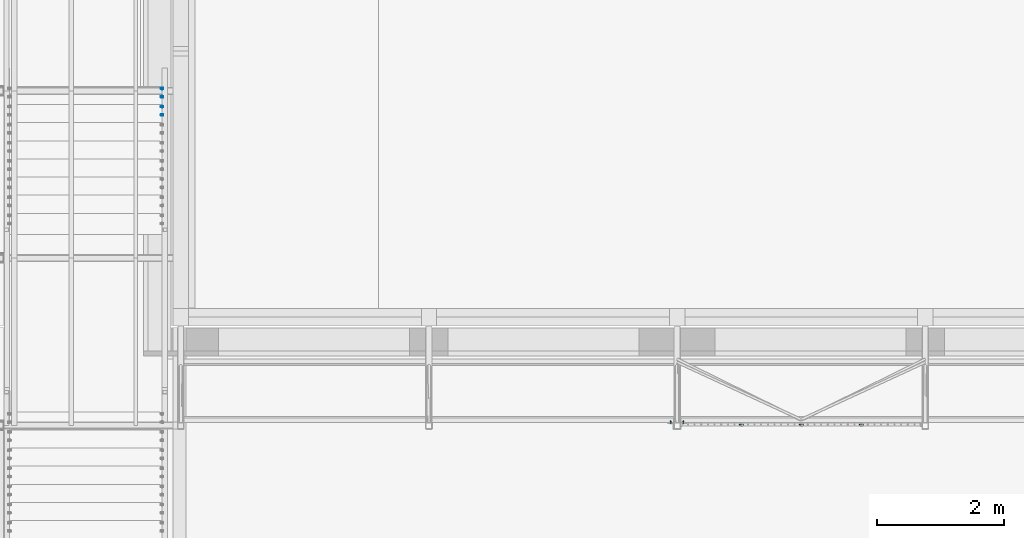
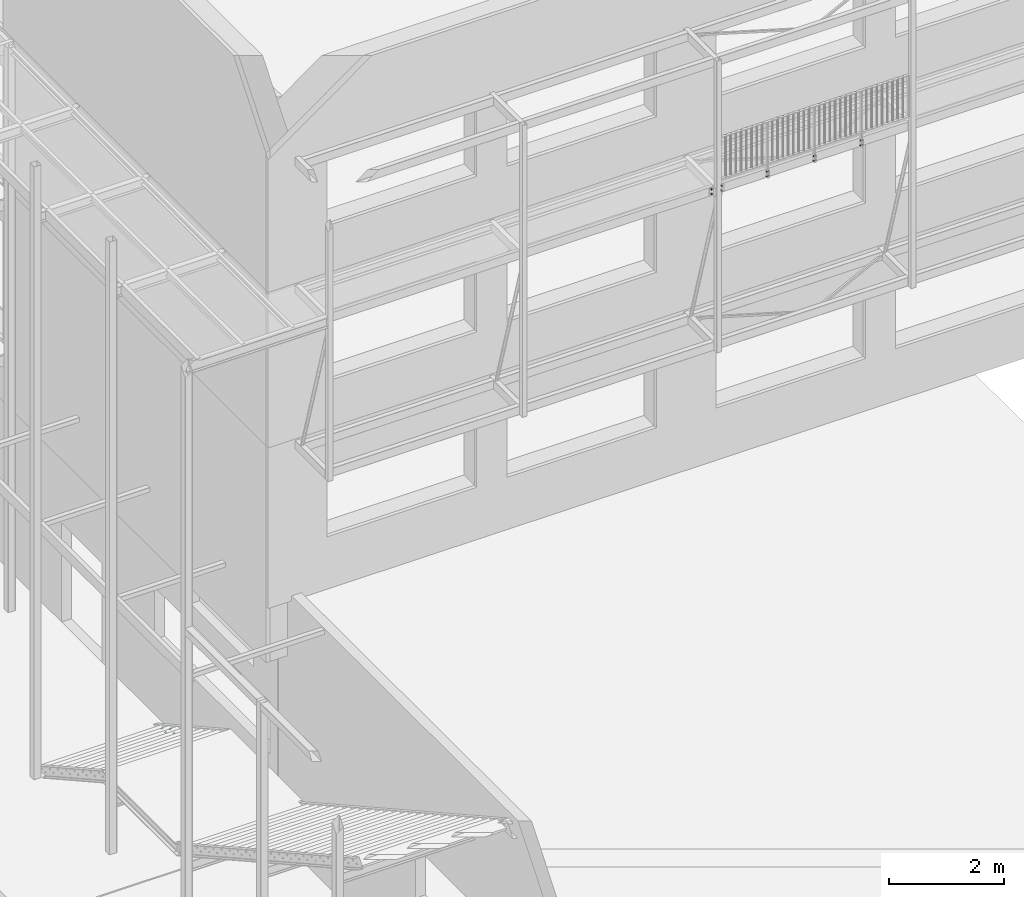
# One storey, part 68 of 78: 7 mechanical fasteners, 4 elements without a shape of their own.
"""IFC2X3 building model written with IfcOpenShell, lengths in millimetres."""

from ifc_helpers import new_model, si_unit, frame, origin_with_axes, origin_2d_with_axis, place, context, subcontext, project, spatial, polyline, circle, outline, extrude, source, transform, mapped, material, type_object, element, aggregate, save


model = new_model("IFC2X3")

# Units and contexts
model_context = context("Model", 3, precision=1e-05, world=origin_with_axes())
body_context = subcontext(model_context, "Body", "Model", "MODEL_VIEW")
ifc_project = project(units=[si_unit("LENGTHUNIT", "METRE", prefix="MILLI"), si_unit("AREAUNIT", "SQUARE_METRE"), si_unit("VOLUMEUNIT", "CUBIC_METRE"), si_unit("MASSUNIT", "GRAM", prefix="KILO"), si_unit("TIMEUNIT", "SECOND"), si_unit("PLANEANGLEUNIT", "RADIAN"), si_unit("SOLIDANGLEUNIT", "STERADIAN"), si_unit("THERMODYNAMICTEMPERATUREUNIT", "DEGREE_CELSIUS"), si_unit("LUMINOUSINTENSITYUNIT", "LUMEN")], contexts=[model_context])

# Site, building, storey
site_placement = place(None, origin_with_axes())
site = spatial("IfcSite", under=ifc_project, at=site_placement, Name="Site", CompositionType="ELEMENT")
building_placement = place(site_placement, origin_with_axes())
building = spatial("IfcBuilding", under=site, at=building_placement, Name="Undefined", CompositionType="ELEMENT")
storey_placement = place(building_placement, origin_with_axes())
storey = spatial("IfcBuildingStorey", under=building, at=storey_placement, Name="Undefined", CompositionType="ELEMENT", Elevation=0.0)

# Assembly, mechanical fasteners
assembly_1_placement = place(storey_placement, origin_with_axes())
assembly_1 = element("IfcElementAssembly", 1, at=assembly_1_placement, inside=storey, Name="MAIN_COURANTE", AssemblyPlace="NOTDEFINED", PredefinedType="RIGID_FRAME")
ifc_material_1 = material(Name="INOX-A4")
mechanical_fastener_type = type_object("IfcMechanicalFastenerType", Name="Bolt assembly")
shared_shape_1 = source(origin_with_axes(), body_context, "Body", "SweptSolid", [
    extrude(circle(Radius=7.0, at=origin_2d_with_axis()), frame((0.0, -7.4, 0.0), z_axis=(0.0, 1.0, 0.0), x_axis=(1.0, 0.0, 0.0)), (0.0, 0.0, 1.0), 15.0),
    extrude(circle(Radius=7.0, at=origin_2d_with_axis()), frame((0.0, 7.4, 0.0), z_axis=(0.0, 1.0, 0.0), x_axis=(1.0, 0.0, 0.0)), (0.0, 0.0, 1.0), 20.1),
    extrude(outline(polyline([(10.96965511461, 0.0), (5.484827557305, 9.50000000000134), (-5.484827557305, 9.50000000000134), (-10.96965511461, 0.0), (-5.484827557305, -9.50000000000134), (5.484827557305, -9.50000000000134), (10.96965511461, 0.0)])), frame((0.0, -18.7000000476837, 0.0), z_axis=(0.0, 1.0, 0.0), x_axis=(1.0, 0.0, 0.0)), (0.0, 0.0, 1.0), 8.0),
    extrude(circle(Radius=6.0, at=origin_2d_with_axis()), frame((0.0, -10.7000000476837, 0.0), z_axis=(0.0, 1.0, 0.0), x_axis=(1.0, 0.0, 0.0)), (0.0, 0.0, 1.0), 60.0),
    extrude(circle(Radius=15.5, at=origin_2d_with_axis()), frame((0.0, -10.7000000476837, 0.0), z_axis=(0.0, 1.0, 0.0), x_axis=(1.0, 0.0, 0.0)), (0.0, 0.0, 1.0), 3.2),
    extrude(circle(Radius=15.5, at=origin_2d_with_axis()), frame((0.0, 27.5, 0.0), z_axis=(0.0, 1.0, 0.0), x_axis=(1.0, 0.0, 0.0)), (0.0, 0.0, 1.0), 3.2),
    extrude(outline(polyline([(10.39230484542, 0.0), (5.19615242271, 9.00000000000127), (-5.19615242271, 9.00000000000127), (-10.39230484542, 0.0), (-5.19615242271, -9.00000000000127), (5.19615242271, -9.00000000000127), (10.39230484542, 0.0)])), frame((0.0, 30.7000000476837, 0.0), z_axis=(0.0, 1.0, 0.0), x_axis=(1.0, 0.0, 0.0)), (0.0, 0.0, 1.0), 10.8),
])
mechanical_fastener_1_placement = place(assembly_1_placement, frame((-20717.5, -8643.0, 159885.04), z_axis=(0.0, 0.0, 1.0), x_axis=(0.0, 1.0, 0.0)))
mechanical_fastener_1 = element("IfcMechanicalFastener", 2, at=mechanical_fastener_1_placement, type_object=mechanical_fastener_type, material=ifc_material_1, Name="Bolt assembly", NominalDiameter=12.0, NominalLength=60.0, context=body_context, shape_type="MappedRepresentation", body=[
    mapped(shared_shape_1, transform((0.0, 0.0, -50.0))),
    mapped(shared_shape_1, transform((0.0, 0.0, 50.0))),
])
mechanical_fastener_2_placement = place(assembly_1_placement, frame((-21660.0, -8643.0, 159885.04), z_axis=(0.0, 0.0, 1.0), x_axis=(0.0, 1.0, 0.0)))
mechanical_fastener_2 = element("IfcMechanicalFastener", 3, at=mechanical_fastener_2_placement, type_object=mechanical_fastener_type, material=ifc_material_1, Name="Bolt assembly", NominalDiameter=12.0, NominalLength=60.0, context=body_context, shape_type="MappedRepresentation", body=[
    mapped(shared_shape_1, transform((0.0, 0.0, -50.0))),
    mapped(shared_shape_1, transform((0.0, 0.0, 50.0))),
])
shared_shape_2 = source(origin_with_axes(), body_context, "Body", "SweptSolid", [
    extrude(circle(Radius=7.0, at=origin_2d_with_axis()), frame((0.0, -7.4, 0.0), z_axis=(0.0, 1.0, 0.0), x_axis=(1.0, 0.0, 0.0)), (0.0, 0.0, 1.0), 15.0),
    extrude(circle(Radius=7.0, at=origin_2d_with_axis()), frame((0.0, 7.4, 0.0), z_axis=(0.0, 1.0, 0.0), x_axis=(1.0, 0.0, 0.0)), (0.0, 0.0, 1.0), 20.1),
    extrude(outline(polyline([(10.96965511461, 0.0), (5.484827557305, 9.50000000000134), (-5.484827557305, 9.50000000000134), (-10.96965511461, 0.0), (-5.484827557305, -9.50000000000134), (5.484827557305, -9.50000000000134), (10.96965511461, 0.0)])), frame((0.0, -18.7000000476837, 0.0), z_axis=(0.0, 1.0, 0.0), x_axis=(1.0, 0.0, 0.0)), (0.0, 0.0, 1.0), 8.0),
    extrude(circle(Radius=6.0, at=origin_2d_with_axis()), frame((0.0, -10.7000000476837, 0.0), z_axis=(0.0, 1.0, 0.0), x_axis=(1.0, 0.0, 0.0)), (0.0, 0.0, 1.0), 60.0),
    extrude(circle(Radius=15.5, at=origin_2d_with_axis()), frame((0.0, -10.7000000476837, 0.0), z_axis=(0.0, 1.0, 0.0), x_axis=(1.0, 0.0, 0.0)), (0.0, 0.0, 1.0), 3.2),
    extrude(circle(Radius=15.5, at=origin_2d_with_axis()), frame((0.0, 27.5, 0.0), z_axis=(0.0, 1.0, 0.0), x_axis=(1.0, 0.0, 0.0)), (0.0, 0.0, 1.0), 3.2),
    extrude(outline(polyline([(10.39230484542, 0.0), (5.19615242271, 9.00000000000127), (-5.19615242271, 9.00000000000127), (-10.39230484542, 0.0), (-5.19615242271, -9.00000000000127), (5.19615242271, -9.00000000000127), (10.39230484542, 0.0)])), frame((0.0, 30.7000000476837, 0.0), z_axis=(0.0, 1.0, 0.0), x_axis=(1.0, 0.0, 0.0)), (0.0, 0.0, 1.0), 10.8),
])
mechanical_fastener_3_placement = place(assembly_1_placement, frame((-19775.0, -8643.0, 159885.04), z_axis=(0.0, 0.0, 1.0), x_axis=(0.0, 1.0, 0.0)))
mechanical_fastener_3 = element("IfcMechanicalFastener", 4, at=mechanical_fastener_3_placement, type_object=mechanical_fastener_type, material=ifc_material_1, Name="Bolt assembly", NominalDiameter=12.0, NominalLength=60.0, context=body_context, shape_type="MappedRepresentation", body=[
    mapped(shared_shape_2, transform((0.0, 0.0, -50.0))),
    mapped(shared_shape_2, transform((0.0, 0.0, 50.0))),
])
aggregate(assembly_1, [mechanical_fastener_3, mechanical_fastener_1, mechanical_fastener_2])

assembly_2_placement = place(storey_placement, origin_with_axes())
assembly_2 = element("IfcElementAssembly", 5, at=assembly_2_placement, inside=storey, AssemblyPlace="NOTDEFINED", PredefinedType="RIGID_FRAME")
ifc_material_2 = material(Name="6.8")
shared_shape_3 = source(origin_with_axes(), body_context, "Body", "SweptSolid", [
    extrude(circle(Radius=6.0, at=origin_2d_with_axis()), frame((0.0, -9.00000002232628, 0.0), z_axis=(0.0, 1.0, 0.0), x_axis=(1.0, 0.0, 0.0)), (0.0, 0.0, 1.0), 9.1),
    extrude(outline(polyline([(10.96965511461, 0.0), (5.484827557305, 9.50000000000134), (-5.484827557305, 9.50000000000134), (-10.96965511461, 0.0), (-5.484827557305, -9.50000000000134), (5.484827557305, -9.50000000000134), (10.96965511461, 0.0)])), frame((0.0, -17.0000000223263, 0.0), z_axis=(0.0, 1.0, 0.0), x_axis=(1.0, 0.0, 0.0)), (0.0, 0.0, 1.0), 8.0),
    extrude(circle(Radius=6.0, at=origin_2d_with_axis()), frame((0.0, -9.00000002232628, 0.0), z_axis=(0.0, 1.0, 0.0), x_axis=(1.0, 0.0, 0.0)), (0.0, 0.0, 1.0), 35.0),
    extrude(circle(Radius=15.5, at=origin_2d_with_axis()), frame((0.0, 0.0, 0.0), z_axis=(0.0, 1.0, 0.0), x_axis=(1.0, 0.0, 0.0)), (0.0, 0.0, 1.0), 3.2),
    extrude(outline(polyline([(10.39230484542, 0.0), (5.19615242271, 9.00000000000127), (-5.19615242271, 9.00000000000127), (-10.39230484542, 0.0), (-5.19615242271, -9.00000000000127), (5.19615242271, -9.00000000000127), (10.39230484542, 0.0)])), frame((0.0, 3.20000004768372, 0.0), z_axis=(0.0, 1.0, 0.0), x_axis=(1.0, 0.0, 0.0)), (0.0, 0.0, 1.0), 10.8),
])
mechanical_fastener_4_placement = place(assembly_2_placement, frame((-30776.4299999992, -3647.00405394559, 148257.040011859), z_axis=(0.0, 0.0, -1.0), x_axis=(0.0, -1.0, 0.0)))
mechanical_fastener_4 = element("IfcMechanicalFastener", 6, at=mechanical_fastener_4_placement, type_object=mechanical_fastener_type, material=ifc_material_2, Name="Bolt assembly", NominalDiameter=12.0, NominalLength=35.0, context=body_context, shape_type="MappedRepresentation", body=[
    mapped(shared_shape_3, transform((0.0, 0.0, 0.0))),
    mapped(shared_shape_3, transform((130.0, 0.0, 0.0))),
])
mechanical_fastener_5_placement = place(assembly_2_placement, frame((-30776.4299999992, -3362.00405395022, 148098.040011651), z_axis=(0.0, 0.0, -1.0), x_axis=(0.0, -1.0, 0.0)))
mechanical_fastener_5 = element("IfcMechanicalFastener", 7, at=mechanical_fastener_5_placement, type_object=mechanical_fastener_type, material=ifc_material_2, Name="Bolt assembly", NominalDiameter=12.0, NominalLength=35.0, context=body_context, shape_type="MappedRepresentation", body=[
    mapped(shared_shape_3, transform((0.0, 0.0, 0.0))),
    mapped(shared_shape_3, transform((130.0, 0.0, 0.0))),
])
aggregate(assembly_2, [mechanical_fastener_4, mechanical_fastener_5])

# Assembly, mechanical fastener
assembly_3_placement = place(storey_placement, origin_with_axes())
assembly_3 = element("IfcElementAssembly", 8, at=assembly_3_placement, inside=storey, AssemblyPlace="NOTDEFINED", PredefinedType="RIGID_FRAME")
ifc_material_3 = material(Name="8.8")
shared_shape_4 = source(origin_with_axes(), body_context, "Body", "SweptSolid", [
    extrude(circle(Radius=9.0, at=origin_2d_with_axis()), frame((0.0, -9.9, 0.0), z_axis=(0.0, 1.0, 0.0), x_axis=(1.0, 0.0, 0.0)), (0.0, 0.0, 1.0), 10.0),
    extrude(circle(Radius=9.0, at=origin_2d_with_axis()), frame((0.0, -0.0999999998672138, 0.0), z_axis=(0.0, 1.0, 0.0), x_axis=(1.0, 0.0, 0.0)), (0.0, 0.0, 1.0), 8.1),
    extrude(outline(polyline([(13.85640646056, 0.0), (6.92820323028, 12.0000000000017), (-6.92820323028, 12.0000000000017), (-13.85640646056, 0.0), (-6.92820323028, -12.0000000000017), (6.92820323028, -12.0000000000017), (13.85640646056, 0.0)])), frame((0.0, -23.4000000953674, 0.0), z_axis=(0.0, 1.0, 0.0), x_axis=(1.0, 0.0, 0.0)), (0.0, 0.0, 1.0), 10.0),
    extrude(circle(Radius=8.0, at=origin_2d_with_axis()), frame((0.0, -13.4000000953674, 0.0), z_axis=(0.0, 1.0, 0.0), x_axis=(1.0, 0.0, 0.0)), (0.0, 0.0, 1.0), 45.0),
    extrude(circle(Radius=18.5, at=origin_2d_with_axis()), frame((0.0, -13.4000000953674, 0.0), z_axis=(0.0, 1.0, 0.0), x_axis=(1.0, 0.0, 0.0)), (0.0, 0.0, 1.0), 3.4),
    extrude(circle(Radius=18.5, at=origin_2d_with_axis()), frame((0.0, 8.0, 0.0), z_axis=(0.0, 1.0, 0.0), x_axis=(1.0, 0.0, 0.0)), (0.0, 0.0, 1.0), 3.4),
    extrude(outline(polyline([(13.85640646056, 0.0), (6.92820323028, 12.0000000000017), (-6.92820323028, 12.0000000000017), (-13.85640646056, 0.0), (-6.92820323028, -12.0000000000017), (6.92820323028, -12.0000000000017), (13.85640646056, 0.0)])), frame((0.0, 11.4000000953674, 0.0), z_axis=(0.0, 1.0, 0.0), x_axis=(1.0, 0.0, 0.0)), (0.0, 0.0, 1.0), 14.8),
])
mechanical_fastener_6_placement = place(assembly_3_placement, frame((-22584.9960164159, -8613.0, 159930.04), z_axis=(1.0, 0.0, 0.0), x_axis=(0.0, 0.0, -1.0)))
mechanical_fastener_6 = element("IfcMechanicalFastener", 9, at=mechanical_fastener_6_placement, type_object=mechanical_fastener_type, material=ifc_material_3, Name="Bolt assembly", NominalDiameter=16.0, NominalLength=45.0, context=body_context, shape_type="MappedRepresentation", body=[
    mapped(shared_shape_4, transform((0.0, 0.0, 0.0))),
    mapped(shared_shape_4, transform((100.0, 0.0, 0.0))),
])
aggregate(assembly_3, [mechanical_fastener_6])

assembly_4_placement = place(storey_placement, origin_with_axes())
assembly_4 = element("IfcElementAssembly", 10, at=assembly_4_placement, inside=storey, AssemblyPlace="NOTDEFINED", PredefinedType="RIGID_FRAME")
mechanical_fastener_7_placement = place(assembly_4_placement, frame((-22785.0039835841, -8613.0, 159930.04), z_axis=(1.0, 0.0, 0.0), x_axis=(0.0, 0.0, -1.0)))
mechanical_fastener_7 = element("IfcMechanicalFastener", 11, at=mechanical_fastener_7_placement, type_object=mechanical_fastener_type, material=ifc_material_3, Name="Bolt assembly", NominalDiameter=16.0, NominalLength=45.0, context=body_context, shape_type="MappedRepresentation", body=[
    mapped(shared_shape_4, transform((0.0, 0.0, 0.0))),
    mapped(shared_shape_4, transform((100.0, 0.0, 0.0))),
])
aggregate(assembly_4, [mechanical_fastener_7])

save(model, "model.ifc")
